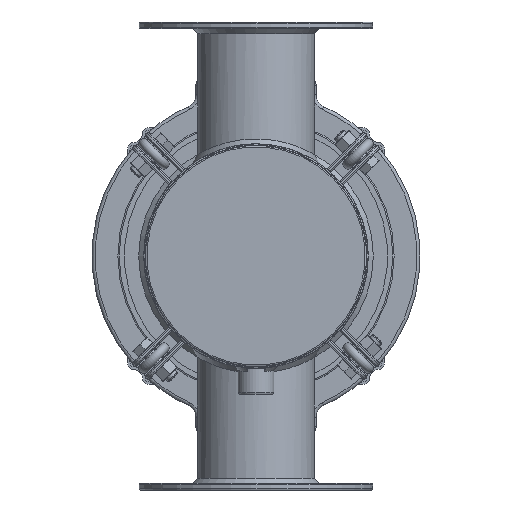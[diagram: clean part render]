
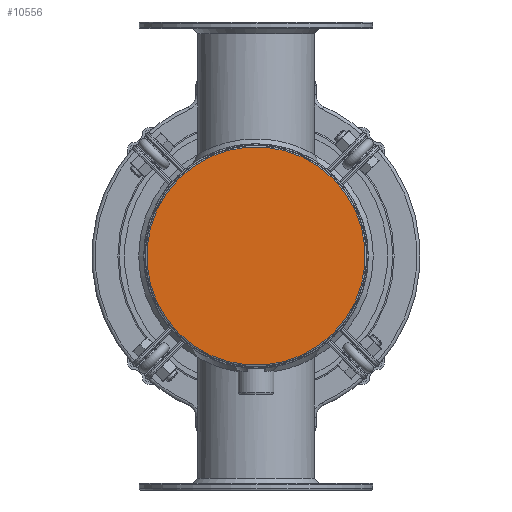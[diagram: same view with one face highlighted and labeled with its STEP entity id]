
A CAD part, front view. The second image highlights one B-rep face of the part: STEP entity #10556.
In plain terms, the highlighted planar face has unit normal (0, -1, 0).
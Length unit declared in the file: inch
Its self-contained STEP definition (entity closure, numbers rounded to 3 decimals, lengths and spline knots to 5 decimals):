
#1043=CIRCLE('',#11351,4.2);
#2206=FACE_OUTER_BOUND('',#2940,.T.);
#2940=EDGE_LOOP('',(#7774));
#5047=VERTEX_POINT('',#19037);
#6056=EDGE_CURVE('',#5047,#5047,#1043,.T.);
#7774=ORIENTED_EDGE('',*,*,#6056,.F.);
#10288=PLANE('',#11354);
#10556=ADVANCED_FACE('',(#2206),#10288,.F.);
#11351=AXIS2_PLACEMENT_3D('',#19038,#13181,#13182);
#11354=AXIS2_PLACEMENT_3D('',#19042,#13187,#13188);
#13181=DIRECTION('center_axis',(0.,1.,0.));
#13182=DIRECTION('ref_axis',(1.,0.,0.));
#13187=DIRECTION('center_axis',(0.,1.,0.));
#13188=DIRECTION('ref_axis',(0.,0.,1.));
#19037=CARTESIAN_POINT('',(-4.2,0.,0.));
#19038=CARTESIAN_POINT('Origin',(0.,0.,0.));
#19042=CARTESIAN_POINT('Origin',(0.,0.,0.));
